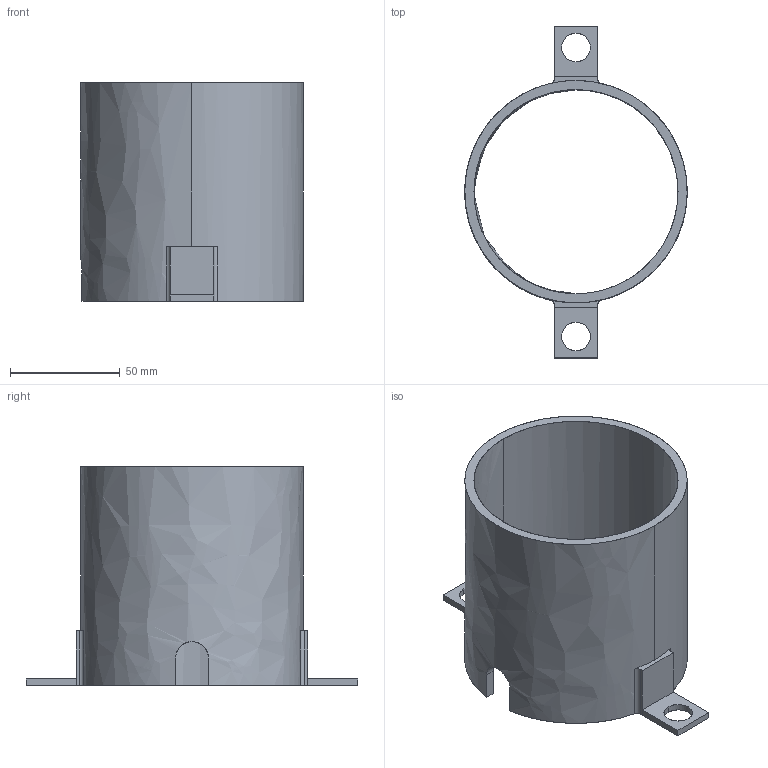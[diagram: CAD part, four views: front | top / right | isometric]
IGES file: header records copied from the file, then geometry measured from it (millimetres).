
Global section: file name: E:\UnigraphicsGraphicData\MISUMI_PRESS-PARTS\IGES\3d_ph70-100-r_07056_r00.igs; native system: NX V5.0; preprocessor: UGS NX IGES V5.0; author: MISUMI; date: 20110105.162244; units: millimetre
Bounding box: 101.6 x 151.6 x 100 mm (x, y, z)
Surface area: 68186.8 mm2 (no closed solid volume)
Topology: 0 solids, 0 shells, 41 faces, 290 edges, 290 vertices
Faces by surface type: bspline 41
